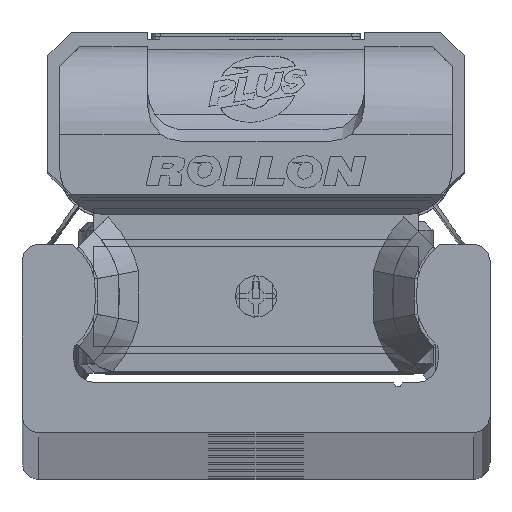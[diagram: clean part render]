
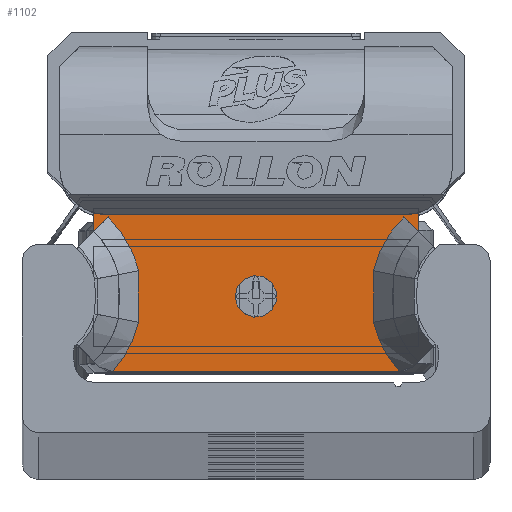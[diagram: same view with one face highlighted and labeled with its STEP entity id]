
A CAD part, top view. The second image highlights one B-rep face of the part: STEP entity #1102.
In plain terms, the highlighted planar face has unit normal (0, 0, 1) as drawn and (0, 0, -1) by its records, which use the part's own axes.
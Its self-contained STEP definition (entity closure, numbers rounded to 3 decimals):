
#1102 = ADVANCED_FACE( '', ( #2676, #2677 ), #2678, .F. );
#2676 = FACE_BOUND( '', #4964, .T. );
#2677 = FACE_OUTER_BOUND( '', #4965, .T. );
#2678 = PLANE( '', #4966 );
#4964 = EDGE_LOOP( '', ( #8069 ) );
#4965 = EDGE_LOOP( '', ( #8070, #8071, #8072, #8073, #8074, #8075, #8076, #8077, #8078, #8079, #8080, #8081, #8082, #8083 ) );
#4966 = AXIS2_PLACEMENT_3D( '', #8084, #8085, #8086 );
#8069 = ORIENTED_EDGE( '', *, *, #13306, .T. );
#8070 = ORIENTED_EDGE( '', *, *, #13227, .F. );
#8071 = ORIENTED_EDGE( '', *, *, #13307, .T. );
#8072 = ORIENTED_EDGE( '', *, *, #13308, .T. );
#8073 = ORIENTED_EDGE( '', *, *, #13309, .T. );
#8074 = ORIENTED_EDGE( '', *, *, #13310, .T. );
#8075 = ORIENTED_EDGE( '', *, *, #13311, .T. );
#8076 = ORIENTED_EDGE( '', *, *, #13312, .T. );
#8077 = ORIENTED_EDGE( '', *, *, #13313, .T. );
#8078 = ORIENTED_EDGE( '', *, *, #13314, .T. );
#8079 = ORIENTED_EDGE( '', *, *, #13315, .T. );
#8080 = ORIENTED_EDGE( '', *, *, #13316, .T. );
#8081 = ORIENTED_EDGE( '', *, *, #13317, .T. );
#8082 = ORIENTED_EDGE( '', *, *, #13284, .T. );
#8083 = ORIENTED_EDGE( '', *, *, #13318, .T. );
#8084 = CARTESIAN_POINT( '', ( 9.7, 4.89, -10.6 ) );
#8085 = DIRECTION( '', ( 0., 0., 1. ) );
#8086 = DIRECTION( '', ( 1., 0., 0. ) );
#13227 = EDGE_CURVE( '', #15939, #15941, #15942, .T. );
#13284 = EDGE_CURVE( '', #16037, #16038, #16039, .T. );
#13306 = EDGE_CURVE( '', #16071, #16071, #16072, .T. );
#13307 = EDGE_CURVE( '', #15939, #16073, #16074, .T. );
#13308 = EDGE_CURVE( '', #16073, #16075, #16076, .T. );
#13309 = EDGE_CURVE( '', #16075, #16077, #16078, .T. );
#13310 = EDGE_CURVE( '', #16077, #16079, #16080, .T. );
#13311 = EDGE_CURVE( '', #16079, #16081, #16082, .T. );
#13312 = EDGE_CURVE( '', #16081, #16083, #16084, .T. );
#13313 = EDGE_CURVE( '', #16083, #16085, #16086, .T. );
#13314 = EDGE_CURVE( '', #16085, #16087, #16088, .T. );
#13315 = EDGE_CURVE( '', #16087, #16089, #16090, .T. );
#13316 = EDGE_CURVE( '', #16089, #16091, #16092, .T. );
#13317 = EDGE_CURVE( '', #16091, #16037, #16093, .T. );
#13318 = EDGE_CURVE( '', #16038, #15941, #16094, .T. );
#15939 = VERTEX_POINT( '', #19648 );
#15941 = VERTEX_POINT( '', #19651 );
#15942 = LINE( '', #19652, #19653 );
#16037 = VERTEX_POINT( '', #19809 );
#16038 = VERTEX_POINT( '', #19810 );
#16039 = B_SPLINE_CURVE_WITH_KNOTS( '', 2, ( #19811, #19812, #19813 ), .UNSPECIFIED., .F., .F., ( 3, 3 ), ( 0., 1. ), .UNSPECIFIED. );
#16071 = VERTEX_POINT( '', #19872 );
#16072 = CIRCLE( '', #19873, 1.25 );
#16073 = VERTEX_POINT( '', #19874 );
#16074 = CIRCLE( '', #19875, 2.8 );
#16075 = VERTEX_POINT( '', #19876 );
#16076 = LINE( '', #19877, #19878 );
#16077 = VERTEX_POINT( '', #19879 );
#16078 = CIRCLE( '', #19880, 2.8 );
#16079 = VERTEX_POINT( '', #19881 );
#16080 = LINE( '', #19882, #19883 );
#16081 = VERTEX_POINT( '', #19884 );
#16082 = LINE( '', #19885, #19886 );
#16083 = VERTEX_POINT( '', #19887 );
#16084 = B_SPLINE_CURVE_WITH_KNOTS( '', 2, ( #19888, #19889, #19890, #19891, #19892 ), .UNSPECIFIED., .F., .F., ( 3, 2, 3 ), ( 0., 0.5, 1. ), .UNSPECIFIED. );
#16085 = VERTEX_POINT( '', #19893 );
#16086 = B_SPLINE_CURVE_WITH_KNOTS( '', 2, ( #19894, #19895, #19896 ), .UNSPECIFIED., .F., .F., ( 3, 3 ), ( 0., 1. ), .UNSPECIFIED. );
#16087 = VERTEX_POINT( '', #19897 );
#16088 = B_SPLINE_CURVE_WITH_KNOTS( '', 2, ( #19898, #19899, #19900 ), .UNSPECIFIED., .F., .F., ( 3, 3 ), ( 0., 1. ), .UNSPECIFIED. );
#16089 = VERTEX_POINT( '', #19901 );
#16090 = LINE( '', #19902, #19903 );
#16091 = VERTEX_POINT( '', #19904 );
#16092 = B_SPLINE_CURVE_WITH_KNOTS( '', 2, ( #19905, #19906, #19907 ), .UNSPECIFIED., .F., .F., ( 3, 3 ), ( 0.1, 1. ), .UNSPECIFIED. );
#16093 = B_SPLINE_CURVE_WITH_KNOTS( '', 2, ( #19908, #19909, #19910 ), .UNSPECIFIED., .F., .F., ( 3, 3 ), ( 0., 1. ), .UNSPECIFIED. );
#16094 = LINE( '', #19911, #19912 );
#19648 = CARTESIAN_POINT( '', ( -9.7, 4.612, -10.6 ) );
#19651 = CARTESIAN_POINT( '', ( -9.7, 3.494, -10.6 ) );
#19652 = CARTESIAN_POINT( '', ( -9.7, 4.89, -10.6 ) );
#19653 = VECTOR( '', #23774, 1000. );
#19809 = CARTESIAN_POINT( '', ( -7.031, 1.144, -10.6 ) );
#19810 = CARTESIAN_POINT( '', ( -8.853, 4.366, -10.6 ) );
#19811 = CARTESIAN_POINT( '', ( -7.031, 1.144, -10.6 ) );
#19812 = CARTESIAN_POINT( '', ( -7.477, 3.018, -10.6 ) );
#19813 = CARTESIAN_POINT( '', ( -8.853, 4.366, -10.6 ) );
#19872 = CARTESIAN_POINT( '', ( 1.25, -0.39, -10.6 ) );
#19873 = AXIS2_PLACEMENT_3D( '', #23885, #23886, #23887 );
#19874 = CARTESIAN_POINT( '', ( -8.95, 4.51, -10.6 ) );
#19875 = AXIS2_PLACEMENT_3D( '', #23888, #23889, #23890 );
#19876 = CARTESIAN_POINT( '', ( 8.95, 4.51, -10.6 ) );
#19877 = CARTESIAN_POINT( '', ( 9.7, 4.51, -10.6 ) );
#19878 = VECTOR( '', #23891, 1000. );
#19879 = CARTESIAN_POINT( '', ( 9.7, 4.612, -10.6 ) );
#19880 = AXIS2_PLACEMENT_3D( '', #23892, #23893, #23894 );
#19881 = CARTESIAN_POINT( '', ( 9.7, 3.497, -10.6 ) );
#19882 = CARTESIAN_POINT( '', ( 9.7, 4.89, -10.6 ) );
#19883 = VECTOR( '', #23895, 1000. );
#19884 = CARTESIAN_POINT( '', ( 8.853, 4.366, -10.6 ) );
#19885 = CARTESIAN_POINT( '', ( 9.7, 3.501, -10.6 ) );
#19886 = VECTOR( '', #23896, 1000. );
#19887 = CARTESIAN_POINT( '', ( 7.031, 1.144, -10.6 ) );
#19888 = CARTESIAN_POINT( '', ( 8.853, 4.366, -10.6 ) );
#19889 = CARTESIAN_POINT( '', ( 8.182, 3.708, -10.6 ) );
#19890 = CARTESIAN_POINT( '', ( 7.715, 2.883, -10.6 ) );
#19891 = CARTESIAN_POINT( '', ( 7.249, 2.058, -10.6 ) );
#19892 = CARTESIAN_POINT( '', ( 7.031, 1.144, -10.6 ) );
#19893 = CARTESIAN_POINT( '', ( 7.031, -1.944, -10.6 ) );
#19894 = CARTESIAN_POINT( '', ( 7.031, 1.144, -10.6 ) );
#19895 = CARTESIAN_POINT( '', ( 6.929, -0.4, -10.6 ) );
#19896 = CARTESIAN_POINT( '', ( 7.031, -1.944, -10.6 ) );
#19897 = CARTESIAN_POINT( '', ( 8.59, -4.893, -10.6 ) );
#19898 = CARTESIAN_POINT( '', ( 7.031, -1.944, -10.6 ) );
#19899 = CARTESIAN_POINT( '', ( 7.429, -3.615, -10.6 ) );
#19900 = CARTESIAN_POINT( '', ( 8.588, -4.89, -10.6 ) );
#19901 = CARTESIAN_POINT( '', ( -8.59, -4.893, -10.6 ) );
#19902 = CARTESIAN_POINT( '', ( 9.7, -4.89, -10.6 ) );
#19903 = VECTOR( '', #23897, 1000. );
#19904 = CARTESIAN_POINT( '', ( -7.031, -1.944, -10.6 ) );
#19905 = CARTESIAN_POINT( '', ( -8.587, -4.89, -10.6 ) );
#19906 = CARTESIAN_POINT( '', ( -7.432, -3.63, -10.6 ) );
#19907 = CARTESIAN_POINT( '', ( -7.031, -1.944, -10.6 ) );
#19908 = CARTESIAN_POINT( '', ( -7.031, -1.944, -10.6 ) );
#19909 = CARTESIAN_POINT( '', ( -6.929, -0.4, -10.6 ) );
#19910 = CARTESIAN_POINT( '', ( -7.031, 1.144, -10.6 ) );
#19911 = CARTESIAN_POINT( '', ( -8.853, 4.366, -10.6 ) );
#19912 = VECTOR( '', #23898, 1000. );
#23774 = DIRECTION( '', ( 0., -1., 0. ) );
#23885 = CARTESIAN_POINT( '', ( 0., -0.39, -10.6 ) );
#23886 = DIRECTION( '', ( 0., 0., 1. ) );
#23887 = DIRECTION( '', ( 1., 0., 0. ) );
#23888 = CARTESIAN_POINT( '', ( -8.95, 7.31, -10.6 ) );
#23889 = DIRECTION( '', ( 0., 0., 1. ) );
#23890 = DIRECTION( '', ( 1., 0., 0. ) );
#23891 = DIRECTION( '', ( 1., 0., 0. ) );
#23892 = CARTESIAN_POINT( '', ( 8.95, 7.31, -10.6 ) );
#23893 = DIRECTION( '', ( 0., 0., 1. ) );
#23894 = DIRECTION( '', ( 1., 0., 0. ) );
#23895 = DIRECTION( '', ( 0., -1., 0. ) );
#23896 = DIRECTION( '', ( -0.7, 0.714, 0. ) );
#23897 = DIRECTION( '', ( -1., 0., 0. ) );
#23898 = DIRECTION( '', ( -0.7, -0.714, 0. ) );
